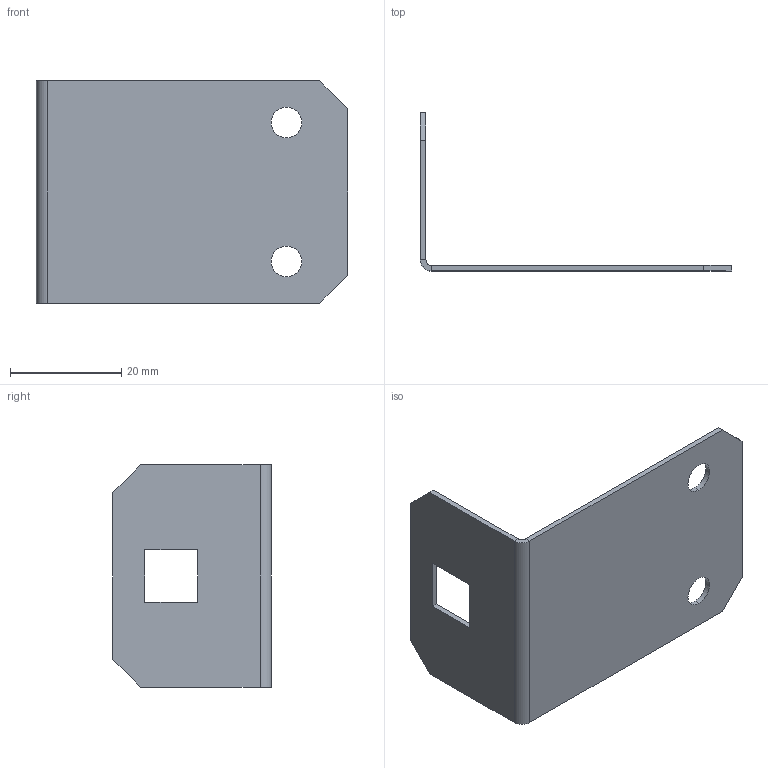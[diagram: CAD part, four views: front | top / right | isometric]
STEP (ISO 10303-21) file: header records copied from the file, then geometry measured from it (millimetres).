
FILE_DESCRIPTION (( 'STEP AP203' ), '1' );
FILE_NAME ('MA1.400.000020.01.01 Äåðæàòåëü ïëàñòðîíîâ Â2000 (2 øò) EKF AleSta.STEP', '2025-02-19T15:29:27', ( '' ), ( '' ), 'SwSTEP 2.0', 'SolidWorks 2021', '' );
FILE_SCHEMA (( 'CONFIG_CONTROL_DESIGN' ));
Length unit declared in the file: millimetre
Products named in the file (1): MA1.400.000020.01.01 Äåðæàòåëü ïëàñòðîíîâ Â2000 (2 øò) EKF AleSta
Bounding box: 56 x 28.5 x 40 mm (x, y, z)
Volume: 3126.5 mm3; surface area: 6559.5 mm2
Topology: 1 solids, 1 shells, 26 faces, 64 edges, 40 vertices
Faces by surface type: plane 20, cylinder 6
Entity records: 845 total; most frequent: CARTESIAN_POINT 131, DIRECTION 130, ORIENTED_EDGE 128, EDGE_CURVE 64, VECTOR 52, LINE 52, VERTEX_POINT 40, AXIS2_PLACEMENT_3D 39
